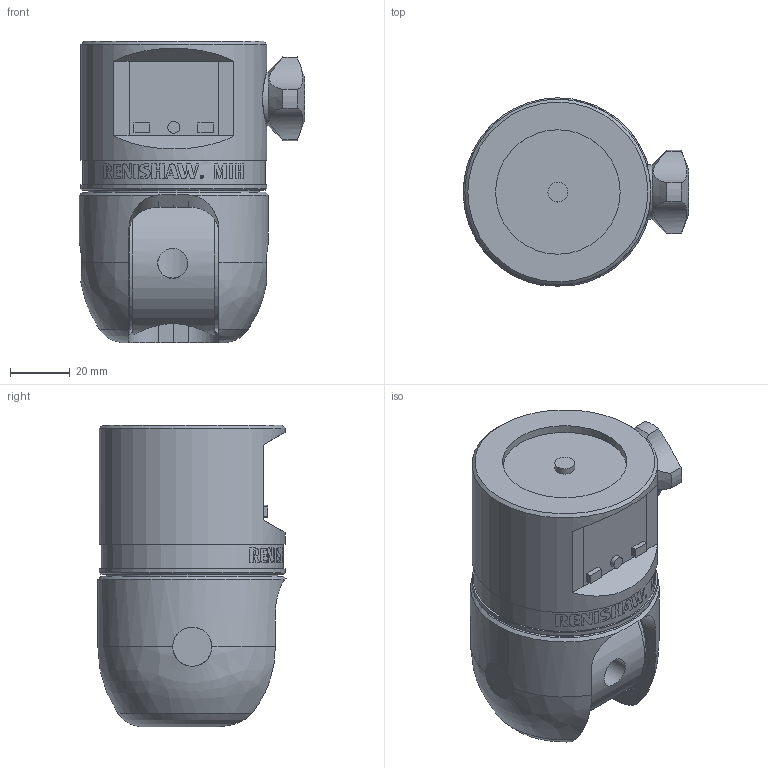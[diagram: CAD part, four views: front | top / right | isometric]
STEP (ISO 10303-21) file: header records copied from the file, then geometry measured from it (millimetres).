
FILE_DESCRIPTION(/* description */ (''),/* implementation_level */ '2;1');
FILE_NAME(/* name */ 'LA-1070-0001#-D.stp',/* time_stamp */ '2012-09-05T07:34:16+01:00',/* author */ (''),/* organization */ (''),/* preprocessor_version */ 'ST-DEVELOPER v11',/* originating_system */ 'SIEMENS PLM Software NX 7.5',/* authorisation */ '');
FILE_SCHEMA (('AUTOMOTIVE_DESIGN { 1 0 10303 214 1 1 1 1 }'));
Length unit declared in the file: millimetre
Products named in the file (1): rt13B55Av54x
Bounding box: 75.1 x 62.81 x 100.56 mm (x, y, z)
Volume: 228123.7 mm3; surface area: 51348.2 mm2
Topology: 3 solids, 3 shells, 112 faces, 391 edges, 321 vertices
Faces by surface type: cylinder 52, plane 48, bspline 6, cone 4, sphere 1, torus 1
Full cylindrical faces by diameter (mm): 4 x1, 6.65 x1, 10 x1, 18.1 x1, 24.95 x1, 26.1 x1, 41.525 x1, 44.05 x1, 44.5 x1, 47.5 x1, 48 x1, 49.5 x1, 57 x2, 60.8 x1, 62 x2
Entity records: 5377 total; most frequent: CARTESIAN_POINT 1802, ORIENTED_EDGE 710, DIRECTION 409, EDGE_CURVE 355, VERTEX_POINT 309, B_SPLINE_CURVE_WITH_KNOTS 226, EDGE_LOOP 174, AXIS2_PLACEMENT_3D 174
